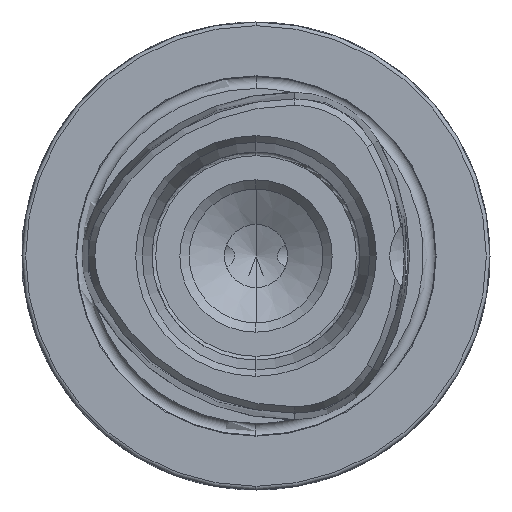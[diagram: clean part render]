
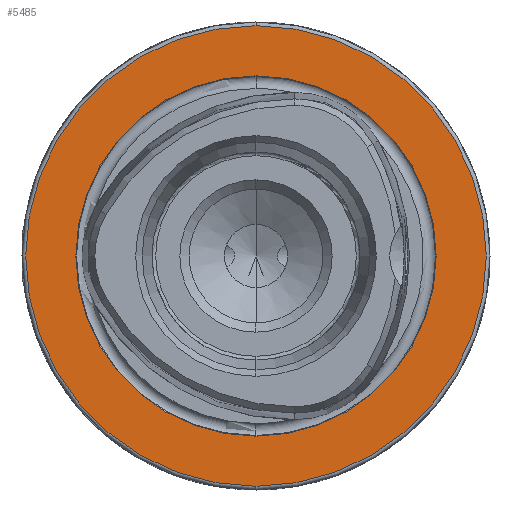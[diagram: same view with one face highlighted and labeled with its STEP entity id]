
A CAD part, left-side view. The second image highlights one B-rep face of the part: STEP entity #5485.
In plain terms, the highlighted planar face has unit normal (-1, 0, 0).
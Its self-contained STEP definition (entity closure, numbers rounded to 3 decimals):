
#243 = EDGE_LOOP ( 'NONE', ( #9453, #2975 ) ) ;
#548 = DIRECTION ( 'NONE',  ( -1., 0., 0. ) ) ;
#802 = CARTESIAN_POINT ( 'NONE',  ( 0., 0., 0. ) ) ;
#921 = AXIS2_PLACEMENT_3D ( 'NONE', #3590, #12646, #8053 ) ;
#1486 = CARTESIAN_POINT ( 'NONE',  ( 0., 0., -31. ) ) ;
#1695 = EDGE_CURVE ( 'NONE', #9827, #6084, #14129, .T. ) ;
#1731 = CARTESIAN_POINT ( 'NONE',  ( 0., 0., 0. ) ) ;
#1835 = DIRECTION ( 'NONE',  ( 0., 0., 1. ) ) ;
#2140 = FACE_BOUND ( 'NONE', #8620, .T. ) ;
#2510 = DIRECTION ( 'NONE',  ( 0., 0., -1. ) ) ;
#2975 = ORIENTED_EDGE ( 'NONE', *, *, #8879, .T. ) ;
#3589 = CIRCLE ( 'NONE', #10070, 31. ) ;
#3590 = CARTESIAN_POINT ( 'NONE',  ( 0., 0., 0. ) ) ;
#3891 = FACE_OUTER_BOUND ( 'NONE', #243, .T. ) ;
#4092 = EDGE_CURVE ( 'NONE', #12116, #6793, #3589, .T. ) ;
#4364 = DIRECTION ( 'NONE',  ( -1., 0., 0. ) ) ;
#5485 = ADVANCED_FACE ( 'NONE', ( #2140, #3891 ), #8877, .F. ) ;
#6084 = VERTEX_POINT ( 'NONE', #13581 ) ;
#6793 = VERTEX_POINT ( 'NONE', #1486 ) ;
#7225 = CARTESIAN_POINT ( 'NONE',  ( 0., 0., 0. ) ) ;
#7298 = CIRCLE ( 'NONE', #921, 24.25 ) ;
#7348 = AXIS2_PLACEMENT_3D ( 'NONE', #13599, #11485, #2510 ) ;
#7373 = DIRECTION ( 'NONE',  ( -1., 0., 0. ) ) ;
#7755 = CARTESIAN_POINT ( 'NONE',  ( 0., 0., 24.25 ) ) ;
#8053 = DIRECTION ( 'NONE',  ( 0., 0., 1. ) ) ;
#8620 = EDGE_LOOP ( 'NONE', ( #10962, #10544 ) ) ;
#8877 = PLANE ( 'NONE',  #7348 ) ;
#8879 = EDGE_CURVE ( 'NONE', #6793, #12116, #10027, .T. ) ;
#9370 = AXIS2_PLACEMENT_3D ( 'NONE', #7225, #548, #10309 ) ;
#9453 = ORIENTED_EDGE ( 'NONE', *, *, #4092, .T. ) ;
#9827 = VERTEX_POINT ( 'NONE', #7755 ) ;
#10027 = CIRCLE ( 'NONE', #9370, 31. ) ;
#10070 = AXIS2_PLACEMENT_3D ( 'NONE', #1731, #7373, #1835 ) ;
#10309 = DIRECTION ( 'NONE',  ( 0., 0., 1. ) ) ;
#10544 = ORIENTED_EDGE ( 'NONE', *, *, #12686, .F. ) ;
#10962 = ORIENTED_EDGE ( 'NONE', *, *, #1695, .F. ) ;
#11485 = DIRECTION ( 'NONE',  ( 1., 0., 0. ) ) ;
#12060 = DIRECTION ( 'NONE',  ( 0., 0., 1. ) ) ;
#12116 = VERTEX_POINT ( 'NONE', #13010 ) ;
#12288 = AXIS2_PLACEMENT_3D ( 'NONE', #802, #4364, #12060 ) ;
#12646 = DIRECTION ( 'NONE',  ( -1., 0., 0. ) ) ;
#12686 = EDGE_CURVE ( 'NONE', #6084, #9827, #7298, .T. ) ;
#13010 = CARTESIAN_POINT ( 'NONE',  ( 0., 0., 31. ) ) ;
#13581 = CARTESIAN_POINT ( 'NONE',  ( 0., 0., -24.25 ) ) ;
#13599 = CARTESIAN_POINT ( 'NONE',  ( 0., 24.25, 0. ) ) ;
#14129 = CIRCLE ( 'NONE', #12288, 24.25 ) ;
